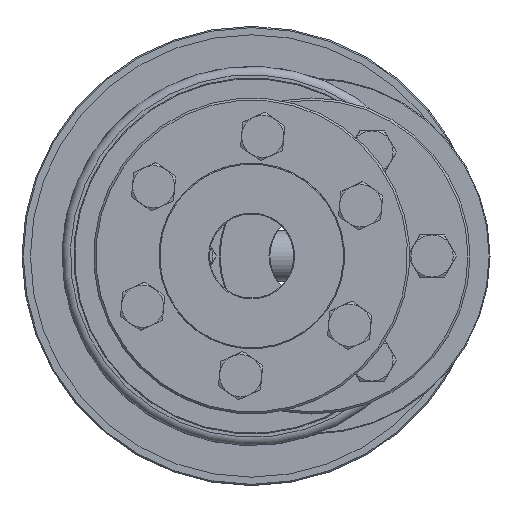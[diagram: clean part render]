
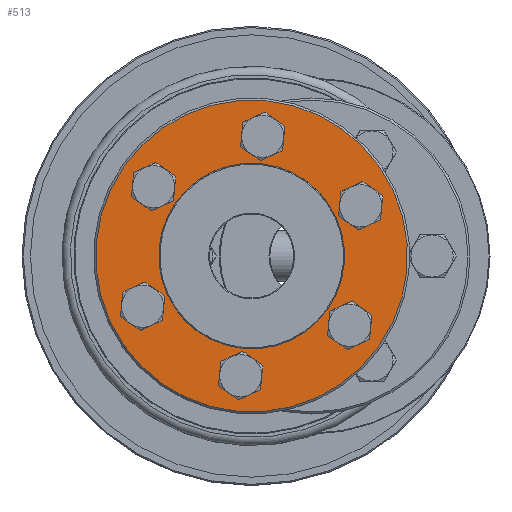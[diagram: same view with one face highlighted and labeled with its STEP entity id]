
A CAD part, left-side view. The second image highlights one B-rep face of the part: STEP entity #513.
In plain terms, the highlighted planar face has unit normal (-1, 0, 0).
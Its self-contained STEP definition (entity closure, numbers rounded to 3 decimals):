
#513 = ADVANCED_FACE( 'NONE', ( #899, #900, #901, #902, #903, #904, #905, #906 ), #907, .F. );
#899 = FACE_OUTER_BOUND( '', #1514, .T. );
#900 = FACE_BOUND( '', #1515, .T. );
#901 = FACE_BOUND( '', #1516, .T. );
#902 = FACE_BOUND( '', #1517, .T. );
#903 = FACE_BOUND( '', #1518, .T. );
#904 = FACE_BOUND( '', #1519, .T. );
#905 = FACE_BOUND( '', #1520, .T. );
#906 = FACE_BOUND( '', #1521, .T. );
#907 = PLANE( '', #1522 );
#1514 = EDGE_LOOP( '', ( #2240 ) );
#1515 = EDGE_LOOP( '', ( #2241 ) );
#1516 = EDGE_LOOP( '', ( #2242 ) );
#1517 = EDGE_LOOP( '', ( #2243 ) );
#1518 = EDGE_LOOP( '', ( #2244 ) );
#1519 = EDGE_LOOP( '', ( #2245 ) );
#1520 = EDGE_LOOP( '', ( #2246 ) );
#1521 = EDGE_LOOP( '', ( #2247 ) );
#1522 = AXIS2_PLACEMENT_3D( '', #2248, #2249, #2250 );
#2240 = ORIENTED_EDGE( '', *, *, #3250, .T. );
#2241 = ORIENTED_EDGE( '', *, *, #3251, .T. );
#2242 = ORIENTED_EDGE( '', *, *, #3252, .T. );
#2243 = ORIENTED_EDGE( '', *, *, #3253, .T. );
#2244 = ORIENTED_EDGE( '', *, *, #3254, .T. );
#2245 = ORIENTED_EDGE( '', *, *, #3255, .T. );
#2246 = ORIENTED_EDGE( '', *, *, #3256, .T. );
#2247 = ORIENTED_EDGE( '', *, *, #3257, .F. );
#2248 = CARTESIAN_POINT( '', ( 0., 22., 0. ) );
#2249 = DIRECTION( '', ( 1., 0., 0. ) );
#2250 = DIRECTION( '', ( 0., 1., 0. ) );
#3250 = EDGE_CURVE( 'NONE', #3568, #3568, #3569, .T. );
#3251 = EDGE_CURVE( 'NONE', #3570, #3570, #3571, .T. );
#3252 = EDGE_CURVE( 'NONE', #3572, #3572, #3573, .T. );
#3253 = EDGE_CURVE( 'NONE', #3574, #3574, #3575, .T. );
#3254 = EDGE_CURVE( 'NONE', #3576, #3576, #3577, .T. );
#3255 = EDGE_CURVE( 'NONE', #3578, #3578, #3579, .T. );
#3256 = EDGE_CURVE( 'NONE', #3580, #3580, #3581, .T. );
#3257 = EDGE_CURVE( 'NONE', #3582, #3582, #3583, .T. );
#3568 = VERTEX_POINT( '', #4042 );
#3569 = CIRCLE( '', #4043, 37. );
#3570 = VERTEX_POINT( '', #4044 );
#3571 = CIRCLE( '', #4045, 3.3 );
#3572 = VERTEX_POINT( '', #4046 );
#3573 = CIRCLE( '', #4047, 3.3 );
#3574 = VERTEX_POINT( '', #4048 );
#3575 = CIRCLE( '', #4049, 3.3 );
#3576 = VERTEX_POINT( '', #4050 );
#3577 = CIRCLE( '', #4051, 3.3 );
#3578 = VERTEX_POINT( '', #4052 );
#3579 = CIRCLE( '', #4053, 3.3 );
#3580 = VERTEX_POINT( '', #4054 );
#3581 = CIRCLE( '', #4055, 3.3 );
#3582 = VERTEX_POINT( '', #4056 );
#3583 = CIRCLE( '', #4057, 22. );
#4042 = CARTESIAN_POINT( '', ( 0., 0., -37. ) );
#4043 = AXIS2_PLACEMENT_3D( '', #5071, #5072, #5073 );
#4044 = CARTESIAN_POINT( '', ( 0., 14.25, 21.382 ) );
#4045 = AXIS2_PLACEMENT_3D( '', #5074, #5075, #5076 );
#4046 = CARTESIAN_POINT( '', ( 0., -14.25, 21.382 ) );
#4047 = AXIS2_PLACEMENT_3D( '', #5077, #5078, #5079 );
#4048 = CARTESIAN_POINT( '', ( 0., -28.5, -3.3 ) );
#4049 = AXIS2_PLACEMENT_3D( '', #5080, #5081, #5082 );
#4050 = CARTESIAN_POINT( '', ( 0., -14.25, -27.982 ) );
#4051 = AXIS2_PLACEMENT_3D( '', #5083, #5084, #5085 );
#4052 = CARTESIAN_POINT( '', ( 0., 14.25, -27.982 ) );
#4053 = AXIS2_PLACEMENT_3D( '', #5086, #5087, #5088 );
#4054 = CARTESIAN_POINT( '', ( 0., 28.5, -3.3 ) );
#4055 = AXIS2_PLACEMENT_3D( '', #5089, #5090, #5091 );
#4056 = CARTESIAN_POINT( '', ( 0., 0., 22. ) );
#4057 = AXIS2_PLACEMENT_3D( '', #5092, #5093, #5094 );
#5071 = CARTESIAN_POINT( '', ( 0., 0., 0. ) );
#5072 = DIRECTION( '', ( -1., 0., 0. ) );
#5073 = DIRECTION( '', ( 0., 0., -1. ) );
#5074 = CARTESIAN_POINT( '', ( 0., 14.25, 24.682 ) );
#5075 = DIRECTION( '', ( 1., 0., 0. ) );
#5076 = DIRECTION( '', ( 0., 0., -1. ) );
#5077 = CARTESIAN_POINT( '', ( 0., -14.25, 24.682 ) );
#5078 = DIRECTION( '', ( 1., 0., 0. ) );
#5079 = DIRECTION( '', ( 0., 0., -1. ) );
#5080 = CARTESIAN_POINT( '', ( 0., -28.5, 0. ) );
#5081 = DIRECTION( '', ( 1., 0., 0. ) );
#5082 = DIRECTION( '', ( 0., 0., -1. ) );
#5083 = CARTESIAN_POINT( '', ( 0., -14.25, -24.682 ) );
#5084 = DIRECTION( '', ( 1., 0., 0. ) );
#5085 = DIRECTION( '', ( 0., 0., -1. ) );
#5086 = CARTESIAN_POINT( '', ( 0., 14.25, -24.682 ) );
#5087 = DIRECTION( '', ( 1., 0., 0. ) );
#5088 = DIRECTION( '', ( 0., 0., -1. ) );
#5089 = CARTESIAN_POINT( '', ( 0., 28.5, 0. ) );
#5090 = DIRECTION( '', ( 1., 0., 0. ) );
#5091 = DIRECTION( '', ( 0., 0., -1. ) );
#5092 = CARTESIAN_POINT( '', ( 0., 0., 0. ) );
#5093 = DIRECTION( '', ( -1., 0., 0. ) );
#5094 = DIRECTION( '', ( 0., 0., 1. ) );
